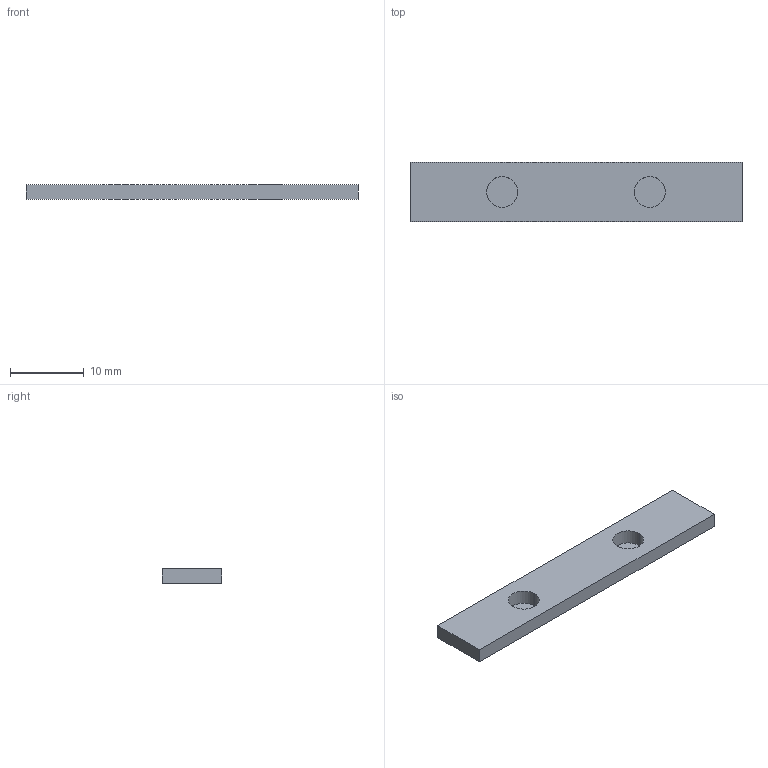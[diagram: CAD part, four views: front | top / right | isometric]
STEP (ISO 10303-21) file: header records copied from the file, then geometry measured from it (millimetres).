
FILE_DESCRIPTION(('STEP AP214'),'1');
FILE_NAME('Z:/Spaceclaim-Entwürfe/Powerpin/Powerpin-Zwischenplatte.stp','2014-01-24T10:45:18',(' '),(' '),'Spatial InterOp 3D',' ',' ');
FILE_SCHEMA(('automotive_design'));
Length unit declared in the file: metre
Products named in the file (3): 2; 1
Bounding box: 45 x 8 x 2 mm (x, y, z)
Volume: 664.6 mm3; surface area: 957.1 mm2
Topology: 1 solids, 3 shells, 12 faces, 28 edges, 20 vertices
Faces by surface type: plane 8, cylinder 4
Entity records: 531 total; most frequent: DIRECTION 70, CARTESIAN_POINT 63, ORIENTED_EDGE 52, EDGE_CURVE 28, AXIS2_PLACEMENT_3D 27, VERTEX_POINT 20, EDGE_LOOP 16, LINE 16
